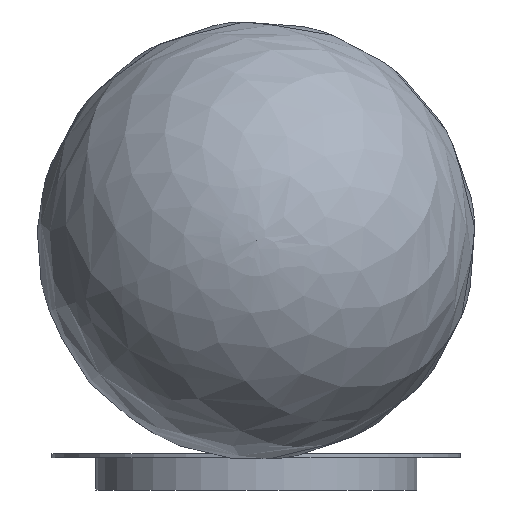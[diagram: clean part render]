
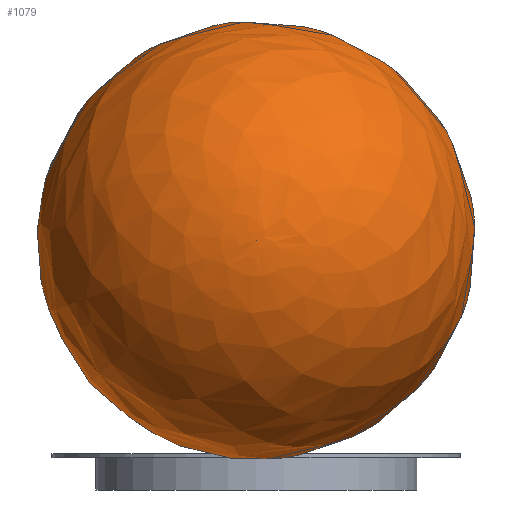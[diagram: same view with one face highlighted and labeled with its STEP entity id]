
A CAD part, front view. The second image highlights one B-rep face of the part: STEP entity #1079.
In plain terms, the highlighted free-form (B-spline) face has degree [2, 2] with [5, 9] control points.
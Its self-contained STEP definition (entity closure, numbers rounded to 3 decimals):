
#14=(
BOUNDED_SURFACE()
B_SPLINE_SURFACE(2,2,((#1901,#1902,#1903,#1904,#1905,#1906,#1907,#1908,
#1909),(#1910,#1911,#1912,#1913,#1914,#1915,#1916,#1917,#1918),(#1919,#1920,
#1921,#1922,#1923,#1924,#1925,#1926,#1927),(#1928,#1929,#1930,#1931,#1932,
#1933,#1934,#1935,#1936),(#1937,#1938,#1939,#1940,#1941,#1942,#1943,#1944,
#1945)),.UNSPECIFIED.,.F.,.T.,.F.)
B_SPLINE_SURFACE_WITH_KNOTS((3,2,3),(3,2,2,2,3),(-1.227,0.173,
1.572),(-3.142,-1.571,0.,1.571,
3.142),.UNSPECIFIED.)
GEOMETRIC_REPRESENTATION_ITEM()
RATIONAL_B_SPLINE_SURFACE(((1.,0.707,1.,0.707,1.,
0.707,1.,0.707,1.),(0.765,0.541,
0.765,0.541,0.765,0.541,0.765,
0.541,0.765),(1.,0.707,1.,0.707,
1.,0.707,1.,0.707,1.),(0.765,0.541,
0.765,0.541,0.765,0.541,
0.765,0.541,0.765),(1.,0.707,
1.,0.707,1.,0.707,1.,0.707,1.)))
REPRESENTATION_ITEM('')
SURFACE()
);
#252=FACE_OUTER_BOUND('',#349,.T.);
#349=EDGE_LOOP('',(#866,#867,#868));
#444=CIRCLE('',#1246,25.378);
#446=CIRCLE('',#1248,75.);
#537=VERTEX_POINT('',#1898);
#538=VERTEX_POINT('',#1946);
#653=EDGE_CURVE('',#537,#537,#444,.T.);
#655=EDGE_CURVE('',#538,#537,#446,.T.);
#866=ORIENTED_EDGE('',*,*,#655,.T.);
#867=ORIENTED_EDGE('',*,*,#653,.T.);
#868=ORIENTED_EDGE('',*,*,#655,.F.);
#1079=ADVANCED_FACE('',(#252),#14,.F.);
#1246=AXIS2_PLACEMENT_3D('',#1899,#1545,#1546);
#1248=AXIS2_PLACEMENT_3D('',#1947,#1549,#1550);
#1545=DIRECTION('center_axis',(0.,-1.,0.));
#1546=DIRECTION('ref_axis',(-0.649,0.,0.761));
#1549=DIRECTION('center_axis',(0.649,0.,
-0.761));
#1550=DIRECTION('ref_axis',(-0.761,0.,-0.649));
#1898=CARTESIAN_POINT('',(-19.307,-94.,58.029));
#1899=CARTESIAN_POINT('Origin',(0.,-94.,
74.5));
#1901=CARTESIAN_POINT('Ctrl Pts',(-19.307,-94.,58.029));
#1902=CARTESIAN_POINT('Ctrl Pts',(-2.835,-94.,38.722));
#1903=CARTESIAN_POINT('Ctrl Pts',(16.471,-94.,55.193));
#1904=CARTESIAN_POINT('Ctrl Pts',(35.778,-94.,71.665));
#1905=CARTESIAN_POINT('Ctrl Pts',(19.307,-94.,90.971));
#1906=CARTESIAN_POINT('Ctrl Pts',(2.835,-94.,110.278));
#1907=CARTESIAN_POINT('Ctrl Pts',(-16.471,-94.,93.807));
#1908=CARTESIAN_POINT('Ctrl Pts',(-35.778,-94.,77.335));
#1909=CARTESIAN_POINT('Ctrl Pts',(-19.307,-94.,58.029));
#1910=CARTESIAN_POINT('Ctrl Pts',(-64.543,-115.276,19.436));
#1911=CARTESIAN_POINT('Ctrl Pts',(-9.478,-115.276,-45.107));
#1912=CARTESIAN_POINT('Ctrl Pts',(55.064,-115.276,9.957));
#1913=CARTESIAN_POINT('Ctrl Pts',(119.607,-115.276,65.022));
#1914=CARTESIAN_POINT('Ctrl Pts',(64.543,-115.276,129.564));
#1915=CARTESIAN_POINT('Ctrl Pts',(9.478,-115.276,194.107));
#1916=CARTESIAN_POINT('Ctrl Pts',(-55.064,-115.276,139.043));
#1917=CARTESIAN_POINT('Ctrl Pts',(-119.607,-115.276,83.978));
#1918=CARTESIAN_POINT('Ctrl Pts',(-64.543,-115.276,19.436));
#1919=CARTESIAN_POINT('Ctrl Pts',(-56.294,-177.493,26.473));
#1920=CARTESIAN_POINT('Ctrl Pts',(-8.267,-177.493,-29.821));
#1921=CARTESIAN_POINT('Ctrl Pts',(48.027,-177.493,18.206));
#1922=CARTESIAN_POINT('Ctrl Pts',(104.321,-177.493,66.233));
#1923=CARTESIAN_POINT('Ctrl Pts',(56.294,-177.493,122.527));
#1924=CARTESIAN_POINT('Ctrl Pts',(8.267,-177.493,178.821));
#1925=CARTESIAN_POINT('Ctrl Pts',(-48.027,-177.493,130.794));
#1926=CARTESIAN_POINT('Ctrl Pts',(-104.321,-177.493,82.767));
#1927=CARTESIAN_POINT('Ctrl Pts',(-56.294,-177.493,26.473));
#1928=CARTESIAN_POINT('Ctrl Pts',(-48.045,-239.709,33.511));
#1929=CARTESIAN_POINT('Ctrl Pts',(-7.056,-239.709,-14.534));
#1930=CARTESIAN_POINT('Ctrl Pts',(40.989,-239.709,26.455));
#1931=CARTESIAN_POINT('Ctrl Pts',(89.034,-239.709,67.444));
#1932=CARTESIAN_POINT('Ctrl Pts',(48.045,-239.709,115.489));
#1933=CARTESIAN_POINT('Ctrl Pts',(7.056,-239.709,163.534));
#1934=CARTESIAN_POINT('Ctrl Pts',(-40.989,-239.709,122.545));
#1935=CARTESIAN_POINT('Ctrl Pts',(-89.034,-239.709,81.556));
#1936=CARTESIAN_POINT('Ctrl Pts',(-48.045,-239.709,33.511));
#1937=CARTESIAN_POINT('Ctrl Pts',(0.,-239.615,
74.5));
#1938=CARTESIAN_POINT('Ctrl Pts',(0.,-239.615,
74.5));
#1939=CARTESIAN_POINT('Ctrl Pts',(0.,-239.615,
74.5));
#1940=CARTESIAN_POINT('Ctrl Pts',(0.,-239.615,
74.5));
#1941=CARTESIAN_POINT('Ctrl Pts',(0.,-239.615,
74.5));
#1942=CARTESIAN_POINT('Ctrl Pts',(0.,-239.615,
74.5));
#1943=CARTESIAN_POINT('Ctrl Pts',(0.,-239.615,
74.5));
#1944=CARTESIAN_POINT('Ctrl Pts',(0.,-239.615,
74.5));
#1945=CARTESIAN_POINT('Ctrl Pts',(0.,-239.615,
74.5));
#1946=CARTESIAN_POINT('',(0.,-239.615,74.5));
#1947=CARTESIAN_POINT('Origin',(-0.084,-164.616,74.428));
